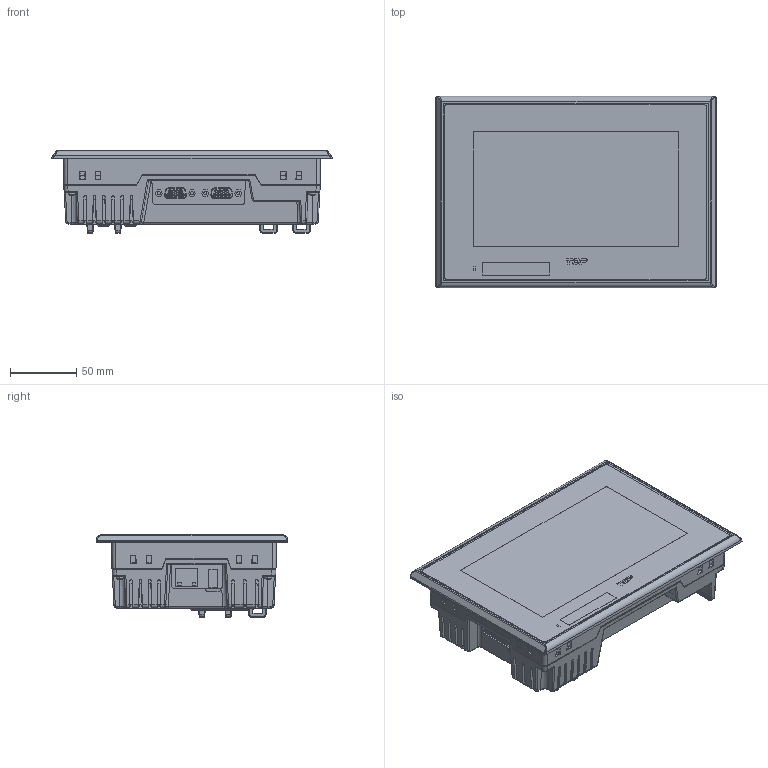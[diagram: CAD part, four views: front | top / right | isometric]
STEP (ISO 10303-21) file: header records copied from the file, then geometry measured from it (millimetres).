
FILE_DESCRIPTION((''),'2;1');
FILE_NAME('TOPRW0700WD-IO','2023-04-27T14:07:34',('BCKIM'),(''),'CREO PARAMETRIC BY PTC INC, 2022414','CREO PARAMETRIC BY PTC INC, 2022414','');
FILE_SCHEMA(('CONFIG_CONTROL_DESIGN'));
Products named in the file (1): TOPRW0700WD-IO
Bounding box: 212 x 145 x 62.5 mm (x, y, z)
Volume: 1249185.1 mm3; surface area: 111620.8 mm2
Topology: 1 solids, 44 shells, 4247 faces, 11720 edges, 7667 vertices
Faces by surface type: plane 3111, cylinder 805, cone 152, bspline 66, extrusion 61, torus 44, sphere 8
Entity records: 140139 total; most frequent: CARTESIAN_POINT 33679, ORIENTED_EDGE 23432, DIRECTION 19972, EDGE_CURVE 11716, VECTOR 9070, LINE 9009, VERTEX_POINT 7667, AXIS2_PLACEMENT_3D 5451
